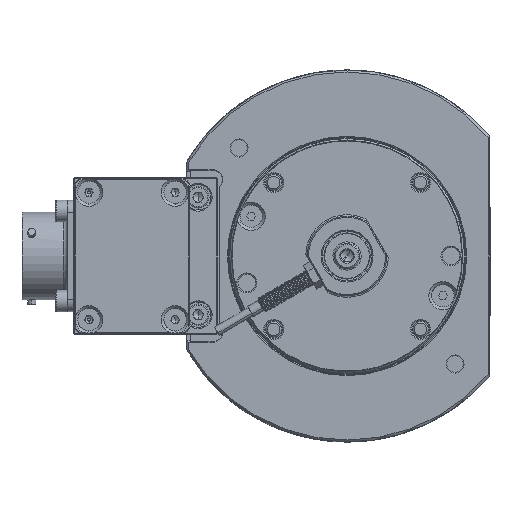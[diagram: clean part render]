
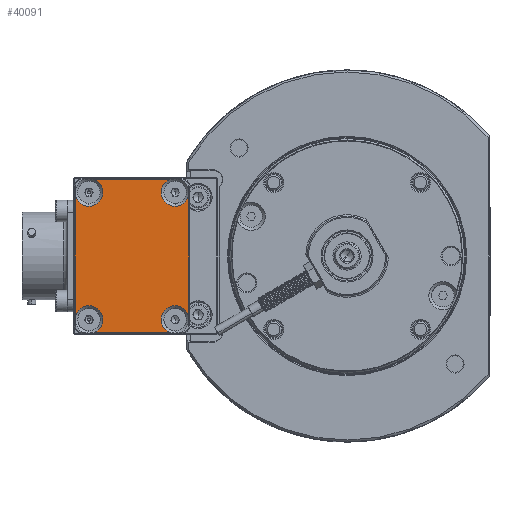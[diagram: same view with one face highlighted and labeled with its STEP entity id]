
A CAD part, front view. The second image highlights one B-rep face of the part: STEP entity #40091.
In plain terms, the highlighted planar face has unit normal (0, -1, 0).
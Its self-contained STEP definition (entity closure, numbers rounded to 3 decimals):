
#410 = CIRCLE ( 'NONE', #133629, 3.55 ) ;
#770 = DIRECTION ( 'NONE',  ( 0., 0., -1. ) ) ;
#3239 = AXIS2_PLACEMENT_3D ( 'NONE', #65210, #101640, #28732 ) ;
#5209 = EDGE_CURVE ( 'NONE', #74790, #119179, #78616, .T. ) ;
#9293 = CARTESIAN_POINT ( 'NONE',  ( -102.484, 17.087, 127.774 ) ) ;
#9437 = EDGE_CURVE ( 'NONE', #118923, #23576, #133043, .T. ) ;
#9930 = CARTESIAN_POINT ( 'NONE',  ( -91.484, 17.087, 115.074 ) ) ;
#10492 = CIRCLE ( 'NONE', #59457, 3.55 ) ;
#11045 = VECTOR ( 'NONE', #50712, 1000. ) ;
#12972 = LINE ( 'NONE', #28239, #11045 ) ;
#13384 = VERTEX_POINT ( 'NONE', #127016 ) ;
#16755 = EDGE_CURVE ( 'NONE', #43323, #135009, #94483, .T. ) ;
#19657 = CARTESIAN_POINT ( 'NONE',  ( -92.854, 17.087, 147.299 ) ) ;
#20177 = CARTESIAN_POINT ( 'NONE',  ( -113.484, 17.087, 111.524 ) ) ;
#23576 = VERTEX_POINT ( 'NONE', #101418 ) ;
#26825 = EDGE_CURVE ( 'NONE', #94259, #23576, #27454, .T. ) ;
#27454 = CIRCLE ( 'NONE', #116989, 3.55 ) ;
#28239 = CARTESIAN_POINT ( 'NONE',  ( -102.484, 17.087, 108.249 ) ) ;
#28632 = DIRECTION ( 'NONE',  ( 0., 0., -1. ) ) ;
#28732 = DIRECTION ( 'NONE',  ( 0., 0., -1. ) ) ;
#29355 = CARTESIAN_POINT ( 'NONE',  ( -113.484, 17.087, 144.024 ) ) ;
#32626 = FACE_OUTER_BOUND ( 'NONE', #71534, .T. ) ;
#33262 = DIRECTION ( 'NONE',  ( 0., 0., 1. ) ) ;
#39807 = EDGE_CURVE ( 'NONE', #13384, #47619, #124254, .T. ) ;
#40091 = ADVANCED_FACE ( 'NONE', ( #32626 ), #116169, .F. ) ;
#40444 = CARTESIAN_POINT ( 'NONE',  ( -112.114, 17.087, 147.299 ) ) ;
#42116 = EDGE_CURVE ( 'NONE', #129993, #47619, #136583, .T. ) ;
#42572 = DIRECTION ( 'NONE',  ( 0., -1., 0. ) ) ;
#42849 = DIRECTION ( 'NONE',  ( 0., 0., -1. ) ) ;
#43323 = VERTEX_POINT ( 'NONE', #19657 ) ;
#43465 = EDGE_CURVE ( 'NONE', #149352, #94259, #10492, .T. ) ;
#44185 = CARTESIAN_POINT ( 'NONE',  ( -88.034, 17.087, 112.361 ) ) ;
#44609 = CARTESIAN_POINT ( 'NONE',  ( -112.114, 17.087, 108.249 ) ) ;
#45297 = VERTEX_POINT ( 'NONE', #73400 ) ;
#46486 = ORIENTED_EDGE ( 'NONE', *, *, #95165, .F. ) ;
#46633 = EDGE_CURVE ( 'NONE', #149352, #119179, #12972, .T. ) ;
#47619 = VERTEX_POINT ( 'NONE', #98289 ) ;
#50712 = DIRECTION ( 'NONE',  ( 1., 0., 0. ) ) ;
#54641 = EDGE_CURVE ( 'NONE', #45297, #135009, #410, .T. ) ;
#54939 = CIRCLE ( 'NONE', #103686, 3.55 ) ;
#58397 = CIRCLE ( 'NONE', #3239, 3.55 ) ;
#59457 = AXIS2_PLACEMENT_3D ( 'NONE', #109129, #96141, #770 ) ;
#61235 = ORIENTED_EDGE ( 'NONE', *, *, #46633, .T. ) ;
#65210 = CARTESIAN_POINT ( 'NONE',  ( -113.484, 17.087, 144.024 ) ) ;
#65418 = DIRECTION ( 'NONE',  ( 0., 0., -1. ) ) ;
#67860 = CARTESIAN_POINT ( 'NONE',  ( -92.854, 17.087, 108.249 ) ) ;
#71534 = EDGE_LOOP ( 'NONE', ( #103805, #61235, #71973, #46486, #148977, #88408, #149397, #75712, #120178, #96047, #104481, #109009 ) ) ;
#71973 = ORIENTED_EDGE ( 'NONE', *, *, #5209, .F. ) ;
#73400 = CARTESIAN_POINT ( 'NONE',  ( -113.484, 17.087, 140.474 ) ) ;
#73705 = DIRECTION ( 'NONE',  ( 0., 0., 1. ) ) ;
#73821 = AXIS2_PLACEMENT_3D ( 'NONE', #123095, #135094, #28632 ) ;
#74790 = VERTEX_POINT ( 'NONE', #9930 ) ;
#75185 = VECTOR ( 'NONE', #113977, 1000. ) ;
#75712 = ORIENTED_EDGE ( 'NONE', *, *, #16755, .T. ) ;
#77811 = DIRECTION ( 'NONE',  ( 0., -1., 0. ) ) ;
#78498 = AXIS2_PLACEMENT_3D ( 'NONE', #101328, #100820, #65418 ) ;
#78616 = CIRCLE ( 'NONE', #81497, 3.55 ) ;
#81497 = AXIS2_PLACEMENT_3D ( 'NONE', #148613, #135032, #124079 ) ;
#88408 = ORIENTED_EDGE ( 'NONE', *, *, #39807, .F. ) ;
#89966 = CARTESIAN_POINT ( 'NONE',  ( -116.934, 17.087, 127.774 ) ) ;
#94259 = VERTEX_POINT ( 'NONE', #144518 ) ;
#94483 = LINE ( 'NONE', #136875, #133782 ) ;
#95165 = EDGE_CURVE ( 'NONE', #129993, #74790, #124684, .T. ) ;
#96047 = ORIENTED_EDGE ( 'NONE', *, *, #152582, .F. ) ;
#96141 = DIRECTION ( 'NONE',  ( 0., -1., 0. ) ) ;
#98171 = CARTESIAN_POINT ( 'NONE',  ( -88.034, 17.087, 127.774 ) ) ;
#98289 = CARTESIAN_POINT ( 'NONE',  ( -88.034, 17.087, 143.188 ) ) ;
#99650 = CARTESIAN_POINT ( 'NONE',  ( -116.934, 17.087, 143.188 ) ) ;
#100689 = DIRECTION ( 'NONE',  ( 0., -1., 0. ) ) ;
#100820 = DIRECTION ( 'NONE',  ( 0., -1., 0. ) ) ;
#101328 = CARTESIAN_POINT ( 'NONE',  ( -91.484, 17.087, 111.524 ) ) ;
#101418 = CARTESIAN_POINT ( 'NONE',  ( -116.934, 17.087, 112.361 ) ) ;
#101640 = DIRECTION ( 'NONE',  ( 0., -1., 0. ) ) ;
#102771 = CARTESIAN_POINT ( 'NONE',  ( -91.484, 17.087, 144.024 ) ) ;
#103686 = AXIS2_PLACEMENT_3D ( 'NONE', #102771, #77811, #136850 ) ;
#103805 = ORIENTED_EDGE ( 'NONE', *, *, #43465, .F. ) ;
#104481 = ORIENTED_EDGE ( 'NONE', *, *, #9437, .T. ) ;
#104635 = DIRECTION ( 'NONE',  ( 0., 1., 0. ) ) ;
#109009 = ORIENTED_EDGE ( 'NONE', *, *, #26825, .F. ) ;
#109129 = CARTESIAN_POINT ( 'NONE',  ( -113.484, 17.087, 111.524 ) ) ;
#113977 = DIRECTION ( 'NONE',  ( 0., 0., -1. ) ) ;
#116169 = PLANE ( 'NONE',  #131908 ) ;
#116989 = AXIS2_PLACEMENT_3D ( 'NONE', #20177, #42572, #126078 ) ;
#118923 = VERTEX_POINT ( 'NONE', #99650 ) ;
#119179 = VERTEX_POINT ( 'NONE', #67860 ) ;
#120178 = ORIENTED_EDGE ( 'NONE', *, *, #54641, .F. ) ;
#123095 = CARTESIAN_POINT ( 'NONE',  ( -91.484, 17.087, 144.024 ) ) ;
#124079 = DIRECTION ( 'NONE',  ( 0., 0., -1. ) ) ;
#124254 = CIRCLE ( 'NONE', #73821, 3.55 ) ;
#124684 = CIRCLE ( 'NONE', #78498, 3.55 ) ;
#126078 = DIRECTION ( 'NONE',  ( 0., 0., -1. ) ) ;
#127016 = CARTESIAN_POINT ( 'NONE',  ( -91.484, 17.087, 140.474 ) ) ;
#129993 = VERTEX_POINT ( 'NONE', #44185 ) ;
#131908 = AXIS2_PLACEMENT_3D ( 'NONE', #9293, #104635, #33262 ) ;
#133043 = LINE ( 'NONE', #89966, #75185 ) ;
#133629 = AXIS2_PLACEMENT_3D ( 'NONE', #29355, #100689, #42849 ) ;
#133782 = VECTOR ( 'NONE', #137406, 1000. ) ;
#135009 = VERTEX_POINT ( 'NONE', #40444 ) ;
#135032 = DIRECTION ( 'NONE',  ( 0., -1., 0. ) ) ;
#135094 = DIRECTION ( 'NONE',  ( 0., -1., 0. ) ) ;
#136583 = LINE ( 'NONE', #98171, #145869 ) ;
#136850 = DIRECTION ( 'NONE',  ( 0., 0., -1. ) ) ;
#136875 = CARTESIAN_POINT ( 'NONE',  ( -102.484, 17.087, 147.299 ) ) ;
#137406 = DIRECTION ( 'NONE',  ( -1., 0., 0. ) ) ;
#144518 = CARTESIAN_POINT ( 'NONE',  ( -113.484, 17.087, 115.074 ) ) ;
#145869 = VECTOR ( 'NONE', #73705, 1000. ) ;
#148345 = EDGE_CURVE ( 'NONE', #43323, #13384, #54939, .T. ) ;
#148613 = CARTESIAN_POINT ( 'NONE',  ( -91.484, 17.087, 111.524 ) ) ;
#148977 = ORIENTED_EDGE ( 'NONE', *, *, #42116, .T. ) ;
#149352 = VERTEX_POINT ( 'NONE', #44609 ) ;
#149397 = ORIENTED_EDGE ( 'NONE', *, *, #148345, .F. ) ;
#152582 = EDGE_CURVE ( 'NONE', #118923, #45297, #58397, .T. ) ;
